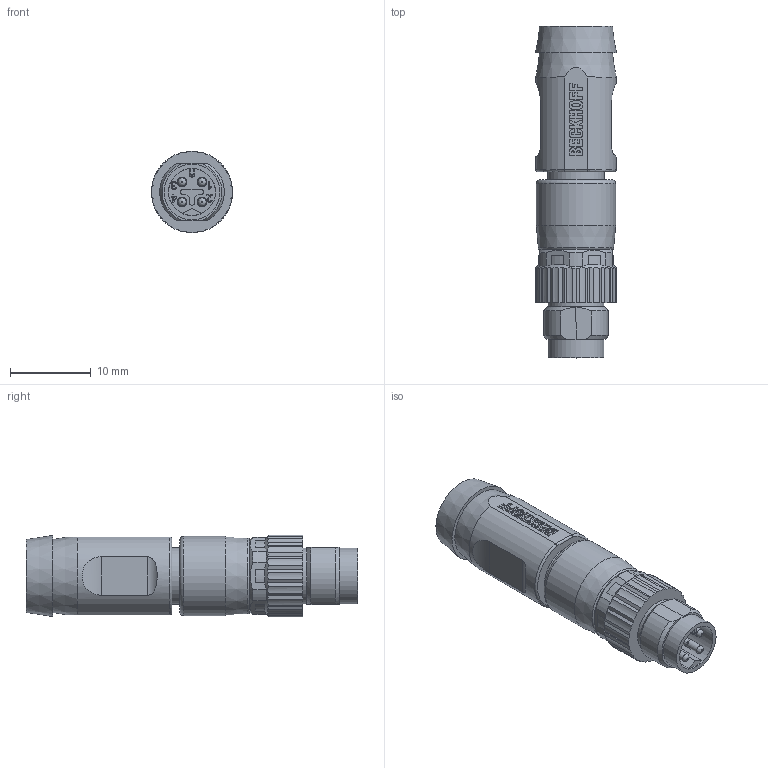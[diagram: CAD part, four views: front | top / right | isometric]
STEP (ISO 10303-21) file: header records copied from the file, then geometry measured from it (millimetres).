
FILE_DESCRIPTION(/* description */ (''),/* implementation_level */ '2;1');
FILE_NAME(/* name */ 'X:\0-inventor\0-3d-Teile\PC-Compo\solids\EtherCAT-P_Stecker_Buchsen\0-Ausgabe\ECP M8\Stecker\M8P-Steck-ger-St-4p_ECATP_solid.stp',/* time_stamp */ '2016-12-09T09:48:36+01:00',/* author */ ('christiankreuzer'),/* organization */ ('Design-AG'),/* preprocessor_version */ 'ST-DEVELOPER v16.5',/* originating_system */ 'Autodesk Inventor 2017',/* authorisation */ '');
FILE_SCHEMA (('AUTOMOTIVE_DESIGN { 1 0 10303 214 3 1 1 }'));
Length unit declared in the file: millimetre
Products named in the file (1): M8P-Steck-ger-St-4p_ECATP_solid-Vorlage
Bounding box: 10.05 x 41 x 10.07 mm (x, y, z)
Volume: 2665.3 mm3; surface area: 1680.7 mm2
Topology: 1 solids, 5 shells, 626 faces, 1742 edges, 1157 vertices
Faces by surface type: plane 513, cylinder 63, bspline 30, cone 16, torus 4
Full cylindrical faces by diameter (mm): 1 x8, 1.2 x4, 5.8 x1, 6.9 x2, 7 x1, 9.8 x1
Entity records: 19927 total; most frequent: CARTESIAN_POINT 4292, ORIENTED_EDGE 3406, DIRECTION 2893, EDGE_CURVE 1703, LINE 1423, VECTOR 1423, VERTEX_POINT 1151, AXIS2_PLACEMENT_3D 735
